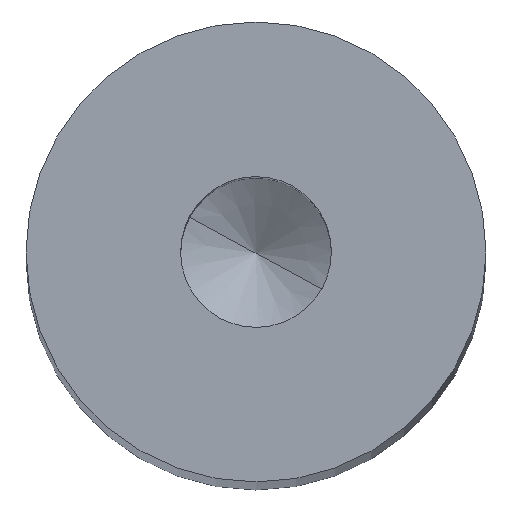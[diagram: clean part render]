
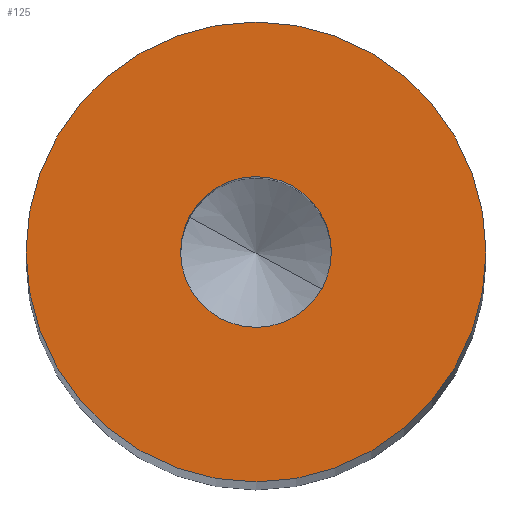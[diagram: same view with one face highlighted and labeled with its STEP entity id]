
A CAD part, top view. The second image highlights one B-rep face of the part: STEP entity #125.
In plain terms, the highlighted planar face has unit normal (0, 0, 1).
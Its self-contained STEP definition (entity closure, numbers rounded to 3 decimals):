
#84=CARTESIAN_POINT('Axis2P3D Location',(0.,0.,0.)) ;
#89=CARTESIAN_POINT('Axis2P3D Location',(0.,0.,0.)) ;
#93=CARTESIAN_POINT('Vertex',(7.5,0.,0.)) ;
#95=CARTESIAN_POINT('Vertex',(-7.5,0.,0.)) ;
#98=CARTESIAN_POINT('Axis2P3D Location',(0.,0.,0.)) ;
#107=CARTESIAN_POINT('Axis2P3D Location',(0.,0.,0.)) ;
#111=CARTESIAN_POINT('Vertex',(-2.158,1.179,0.)) ;
#113=CARTESIAN_POINT('Vertex',(2.158,-1.179,0.)) ;
#116=CARTESIAN_POINT('Axis2P3D Location',(0.,0.,0.)) ;
#85=DIRECTION('Axis2P3D Direction',(0.,0.,1.)) ;
#86=DIRECTION('Axis2P3D XDirection',(1.,0.,0.)) ;
#90=DIRECTION('Axis2P3D Direction',(0.,0.,1.)) ;
#99=DIRECTION('Axis2P3D Direction',(0.,0.,1.)) ;
#108=DIRECTION('Axis2P3D Direction',(0.,0.,1.)) ;
#117=DIRECTION('Axis2P3D Direction',(0.,0.,1.)) ;
#87=AXIS2_PLACEMENT_3D('Plane Axis2P3D',#84,#85,#86) ;
#91=AXIS2_PLACEMENT_3D('Circle Axis2P3D',#89,#90,$) ;
#100=AXIS2_PLACEMENT_3D('Circle Axis2P3D',#98,#99,$) ;
#109=AXIS2_PLACEMENT_3D('Circle Axis2P3D',#107,#108,$) ;
#118=AXIS2_PLACEMENT_3D('Circle Axis2P3D',#116,#117,$) ;
#104=ORIENTED_EDGE('',*,*,#97,.T.) ;
#105=ORIENTED_EDGE('',*,*,#102,.T.) ;
#122=ORIENTED_EDGE('',*,*,#115,.F.) ;
#123=ORIENTED_EDGE('',*,*,#120,.F.) ;
#124=FACE_BOUND('',#121,.T.) ;
#125=ADVANCED_FACE('Corps principal',(#106,#124),#88,.T.) ;
#92=CIRCLE('generated circle',#91,7.5) ;
#101=CIRCLE('generated circle',#100,7.5) ;
#110=CIRCLE('generated circle',#109,2.459) ;
#119=CIRCLE('generated circle',#118,2.459) ;
#97=EDGE_CURVE('',#94,#96,#92,.T.) ;
#102=EDGE_CURVE('',#96,#94,#101,.T.) ;
#115=EDGE_CURVE('',#112,#114,#110,.T.) ;
#120=EDGE_CURVE('',#114,#112,#119,.T.) ;
#103=EDGE_LOOP('',(#104,#105)) ;
#121=EDGE_LOOP('',(#122,#123)) ;
#106=FACE_OUTER_BOUND('',#103,.T.) ;
#88=PLANE('',#87) ;
#94=VERTEX_POINT('',#93) ;
#96=VERTEX_POINT('',#95) ;
#112=VERTEX_POINT('',#111) ;
#114=VERTEX_POINT('',#113) ;
